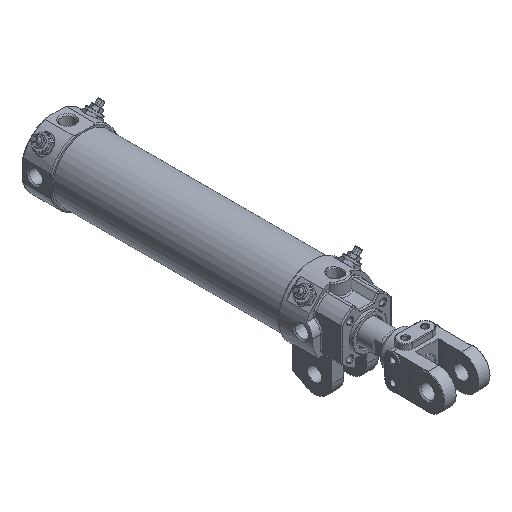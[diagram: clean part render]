
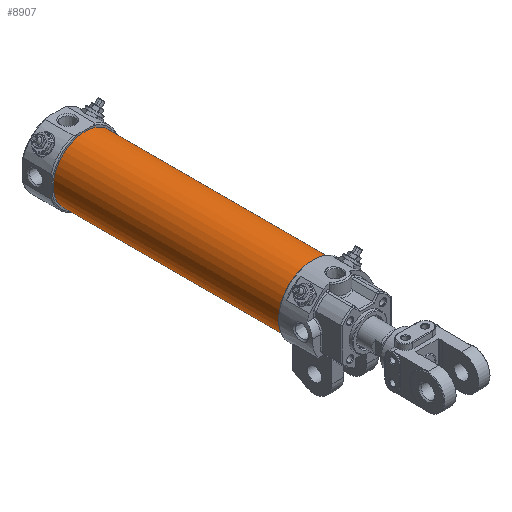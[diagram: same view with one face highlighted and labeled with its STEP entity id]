
A CAD part, isometric view. The second image highlights one B-rep face of the part: STEP entity #8907.
In plain terms, the highlighted cylindrical face has radius 27.5 mm (diameter 55 mm), a full revolution.
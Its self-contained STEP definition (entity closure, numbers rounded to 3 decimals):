
#996=CARTESIAN_POINT('',(27.5,246.0,0.));
#997=VERTEX_POINT('',#996);
#998=CARTESIAN_POINT('',(0.,246.0,0.));
#999=DIRECTION('',(0.0,-1.0,0.0));
#1000=DIRECTION('',(-1.0,0.0,0.0));
#1001=AXIS2_PLACEMENT_3D('',#998,#999,#1000);
#1002=CIRCLE('',#1001,27.5);
#1003=EDGE_CURVE('',#997,#997,#1002,.T.);
#8884=CARTESIAN_POINT('',(27.5,50.,0.));
#8885=VERTEX_POINT('',#8884);
#8886=CARTESIAN_POINT('',(0.,50.,0.));
#8887=DIRECTION('',(0.0,-1.0,0.0));
#8888=DIRECTION('',(-1.0,0.0,0.0));
#8889=AXIS2_PLACEMENT_3D('',#8886,#8887,#8888);
#8890=CIRCLE('',#8889,27.5);
#8891=EDGE_CURVE('',#8885,#8885,#8890,.T.);
#8896=CARTESIAN_POINT('',(0.,50.,0.));
#8897=DIRECTION('',(0.0,1.0,0.));
#8898=DIRECTION('',(-1.0,0.0,0.0));
#8899=AXIS2_PLACEMENT_3D('',#8896,#8897,#8898);
#8900=CYLINDRICAL_SURFACE('',#8899,27.5);
#8901=ORIENTED_EDGE('',*,*,#1003,.T.);
#8902=EDGE_LOOP('',(#8901));
#8903=FACE_OUTER_BOUND('',#8902,.T.);
#8904=ORIENTED_EDGE('',*,*,#8891,.F.);
#8905=EDGE_LOOP('',(#8904));
#8906=FACE_BOUND('',#8905,.T.);
#8907=ADVANCED_FACE('',(#8903,#8906),#8900,.T.);
